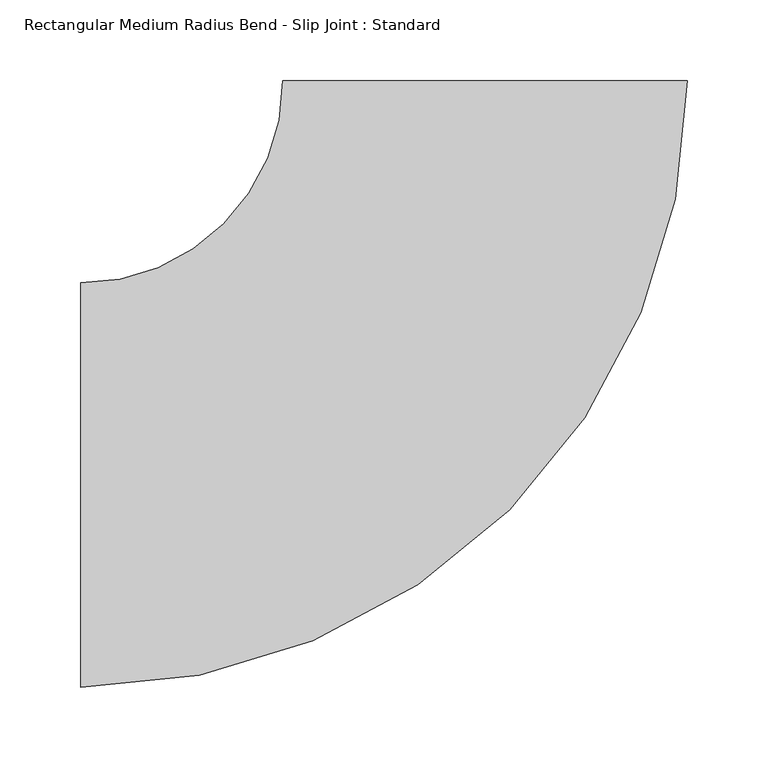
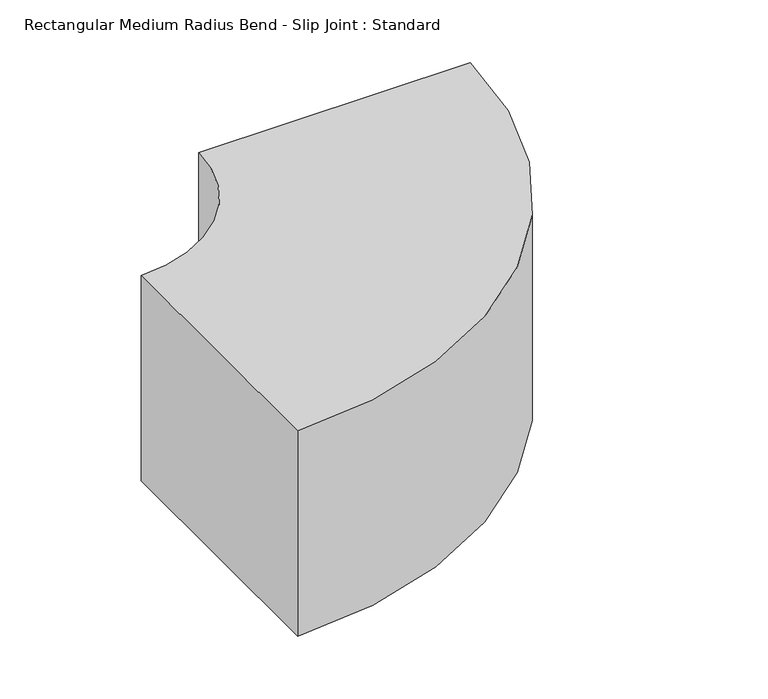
"""IFC4 building model written with IfcOpenShell, lengths in millimetres: duct fitting geometry, Rectangular Medium Radius Bend - Slip Joint : Standard."""

from ifc_helpers import new_model, si_unit, point, frame, frame_2d, origin, place, context, project, spatial, polyline, circle_curve, trimmed, segment, composite_curve, outline, extrude, source, transform, mapped, element, save


def rectangular_medium_radius_bend_slip_joint_standard_c436b681(model_context):
    return source(origin(), model_context, "Body", "SweptSolid", [
        extrude(outline(composite_curve([segment(trimmed(circle_curve(frame_2d((-249.9979884, 250.0)), 375.0), [point((125.0020116, 249.9969826))], [point((-249.9979884, -125.0))], False, "CARTESIAN"), True, "CONTINUOUS"), segment(polyline([(-249.9979884, -125.0), (-249.9979884, 125.0)]), True, "CONTINUOUS"), segment(trimmed(circle_curve(frame_2d((-249.9979884, 250.0)), 125.0), [point((-249.9979884, 125.0))], [point((-124.9979884, 249.9989942))], True, "CARTESIAN"), True, "CONTINUOUS"), segment(polyline([(-124.9979884, 249.9989942), (125.0020116, 249.9969826)]), True, "CONTINUOUS")], self_intersect=False)), frame((0.0, 0.0, -100.0), z_axis=(0.0, 0.0, 1.0), x_axis=(1.0, 0.0, 0.0)), (0.0, 0.0, 1.0), 200.0),
    ])


if __name__ == "__main__":
    model = new_model("IFC4")
    model_context = context("Model", 3, world=origin())
    ifc_project = project(units=[si_unit("LENGTHUNIT", "METRE", prefix="MILLI")], contexts=[model_context])
    site = spatial("IfcSite", under=ifc_project)
    building = spatial("IfcBuilding", under=site)
    placement = place(None, origin())
    rectangular_medium_radius_bend_slip_joint_standard_shape = rectangular_medium_radius_bend_slip_joint_standard_c436b681(model_context)
    element("IfcDuctFitting", 1, ObjectType="Rectangular Medium Radius Bend - Slip Joint : Standard", at=placement, inside=building, context=model_context, shape_type="MappedRepresentation", body=[
        mapped(rectangular_medium_radius_bend_slip_joint_standard_shape, transform((0.0, 0.0, 0.0), x_axis=(1.0, 0.0, 0.0), y_axis=(0.0, 1.0, 0.0), z_axis=(0.0, 0.0, 1.0))),
    ])
    save(model, "model.ifc")
